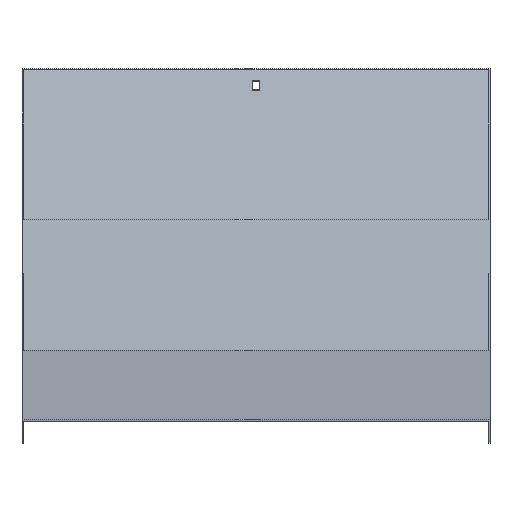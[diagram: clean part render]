
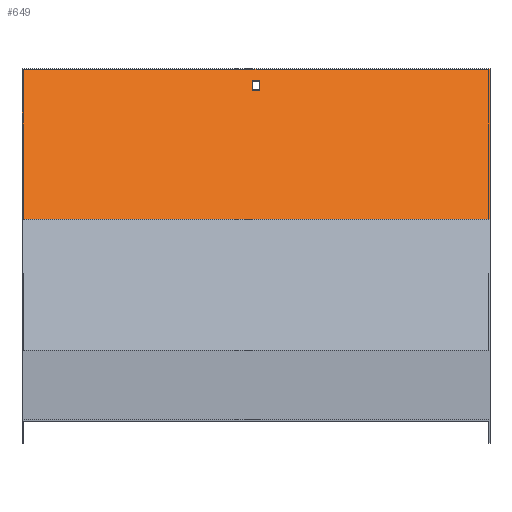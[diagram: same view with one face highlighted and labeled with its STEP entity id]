
A CAD part, top view. The second image highlights one B-rep face of the part: STEP entity #649.
In plain terms, the highlighted planar face has unit normal (0, 0.5, 0.866).
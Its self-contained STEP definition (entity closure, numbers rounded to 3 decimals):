
#24 = PLANE ( 'NONE',  #165 ) ;
#34 = VERTEX_POINT ( 'NONE', #913 ) ;
#41 = FACE_OUTER_BOUND ( 'NONE', #677, .T. ) ;
#49 = CARTESIAN_POINT ( 'NONE',  ( 201.5, 173.228, -449.839 ) ) ;
#71 = ORIENTED_EDGE ( 'NONE', *, *, #548, .F. ) ;
#83 = ORIENTED_EDGE ( 'NONE', *, *, #540, .F. ) ;
#90 = VECTOR ( 'NONE', #702, 1000. ) ;
#105 = VERTEX_POINT ( 'NONE', #719 ) ;
#106 = EDGE_CURVE ( 'NONE', #369, #491, #726, .T. ) ;
#128 = ORIENTED_EDGE ( 'NONE', *, *, #759, .F. ) ;
#130 = DIRECTION ( 'NONE',  ( 0., -0.866, 0.5 ) ) ;
#138 = ORIENTED_EDGE ( 'NONE', *, *, #673, .T. ) ;
#157 = DIRECTION ( 'NONE',  ( 0., 0.866, -0.5 ) ) ;
#165 = AXIS2_PLACEMENT_3D ( 'NONE', #49, #656, #357 ) ;
#179 = VECTOR ( 'NONE', #379, 1000. ) ;
#183 = ORIENTED_EDGE ( 'NONE', *, *, #106, .F. ) ;
#220 = ORIENTED_EDGE ( 'NONE', *, *, #293, .F. ) ;
#237 = VECTOR ( 'NONE', #884, 1000. ) ;
#268 = LINE ( 'NONE', #363, #321 ) ;
#275 = VERTEX_POINT ( 'NONE', #451 ) ;
#290 = CARTESIAN_POINT ( 'NONE',  ( -3.25, 284.772, -514.239 ) ) ;
#293 = EDGE_CURVE ( 'NONE', #34, #664, #970, .T. ) ;
#304 = LINE ( 'NONE', #537, #815 ) ;
#309 = CARTESIAN_POINT ( 'NONE',  ( -201.5, 302.958, -524.739 ) ) ;
#321 = VECTOR ( 'NONE', #585, 1000. ) ;
#323 = LINE ( 'NONE', #765, #90 ) ;
#357 = DIRECTION ( 'NONE',  ( 0., -0.866, 0.5 ) ) ;
#358 = EDGE_LOOP ( 'NONE', ( #71, #183, #709, #83 ) ) ;
#363 = CARTESIAN_POINT ( 'NONE',  ( 201.5, 302.958, -524.739 ) ) ;
#369 = VERTEX_POINT ( 'NONE', #290 ) ;
#379 = DIRECTION ( 'NONE',  ( -1., 0., 0. ) ) ;
#381 = ORIENTED_EDGE ( 'NONE', *, *, #450, .T. ) ;
#384 = LINE ( 'NONE', #986, #609 ) ;
#397 = CARTESIAN_POINT ( 'NONE',  ( 201.5, 302.958, -524.739 ) ) ;
#414 = DIRECTION ( 'NONE',  ( 1., 0., 0. ) ) ;
#433 = FACE_BOUND ( 'NONE', #358, .T. ) ;
#444 = CARTESIAN_POINT ( 'NONE',  ( 201.5, 173.228, -449.839 ) ) ;
#450 = EDGE_CURVE ( 'NONE', #554, #664, #268, .T. ) ;
#451 = CARTESIAN_POINT ( 'NONE',  ( -3.25, 292.566, -518.739 ) ) ;
#491 = VERTEX_POINT ( 'NONE', #822 ) ;
#528 = CARTESIAN_POINT ( 'NONE',  ( -201.5, 173.228, -449.839 ) ) ;
#537 = CARTESIAN_POINT ( 'NONE',  ( 201.5, 173.228, -449.839 ) ) ;
#540 = EDGE_CURVE ( 'NONE', #715, #275, #384, .T. ) ;
#541 = LINE ( 'NONE', #444, #179 ) ;
#548 = EDGE_CURVE ( 'NONE', #491, #715, #323, .T. ) ;
#554 = VERTEX_POINT ( 'NONE', #397 ) ;
#585 = DIRECTION ( 'NONE',  ( -1., 0., 0. ) ) ;
#609 = VECTOR ( 'NONE', #684, 1000. ) ;
#649 = ADVANCED_FACE ( 'NONE', ( #433, #41 ), #24, .T. ) ;
#656 = DIRECTION ( 'NONE',  ( 0., 0.5, 0.866 ) ) ;
#664 = VERTEX_POINT ( 'NONE', #309 ) ;
#673 = EDGE_CURVE ( 'NONE', #105, #554, #304, .T. ) ;
#677 = EDGE_LOOP ( 'NONE', ( #220, #128, #138, #381 ) ) ;
#684 = DIRECTION ( 'NONE',  ( -1., 0., 0. ) ) ;
#702 = DIRECTION ( 'NONE',  ( 0., 0.866, -0.5 ) ) ;
#709 = ORIENTED_EDGE ( 'NONE', *, *, #796, .F. ) ;
#715 = VERTEX_POINT ( 'NONE', #914 ) ;
#719 = CARTESIAN_POINT ( 'NONE',  ( 201.5, 173.228, -449.839 ) ) ;
#726 = LINE ( 'NONE', #781, #904 ) ;
#759 = EDGE_CURVE ( 'NONE', #105, #34, #541, .T. ) ;
#765 = CARTESIAN_POINT ( 'NONE',  ( 3.25, 284.772, -514.239 ) ) ;
#781 = CARTESIAN_POINT ( 'NONE',  ( 3.25, 284.772, -514.239 ) ) ;
#796 = EDGE_CURVE ( 'NONE', #275, #369, #811, .T. ) ;
#806 = CARTESIAN_POINT ( 'NONE',  ( -3.25, 284.772, -514.239 ) ) ;
#811 = LINE ( 'NONE', #806, #897 ) ;
#815 = VECTOR ( 'NONE', #157, 1000. ) ;
#822 = CARTESIAN_POINT ( 'NONE',  ( 3.25, 284.772, -514.239 ) ) ;
#884 = DIRECTION ( 'NONE',  ( 0., 0.866, -0.5 ) ) ;
#897 = VECTOR ( 'NONE', #130, 1000. ) ;
#904 = VECTOR ( 'NONE', #414, 1000. ) ;
#913 = CARTESIAN_POINT ( 'NONE',  ( -201.5, 173.228, -449.839 ) ) ;
#914 = CARTESIAN_POINT ( 'NONE',  ( 3.25, 292.566, -518.739 ) ) ;
#970 = LINE ( 'NONE', #528, #237 ) ;
#986 = CARTESIAN_POINT ( 'NONE',  ( 3.25, 292.566, -518.739 ) ) ;
